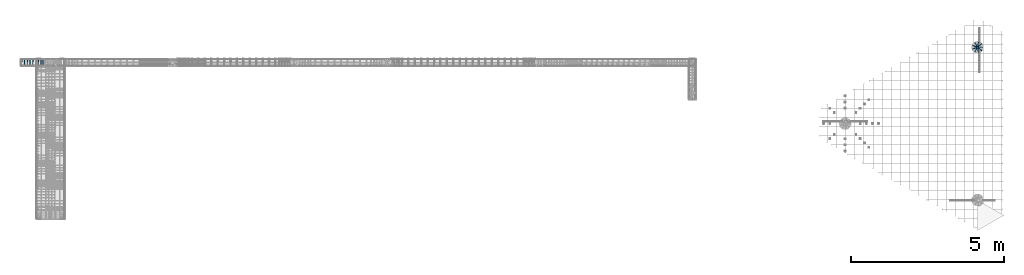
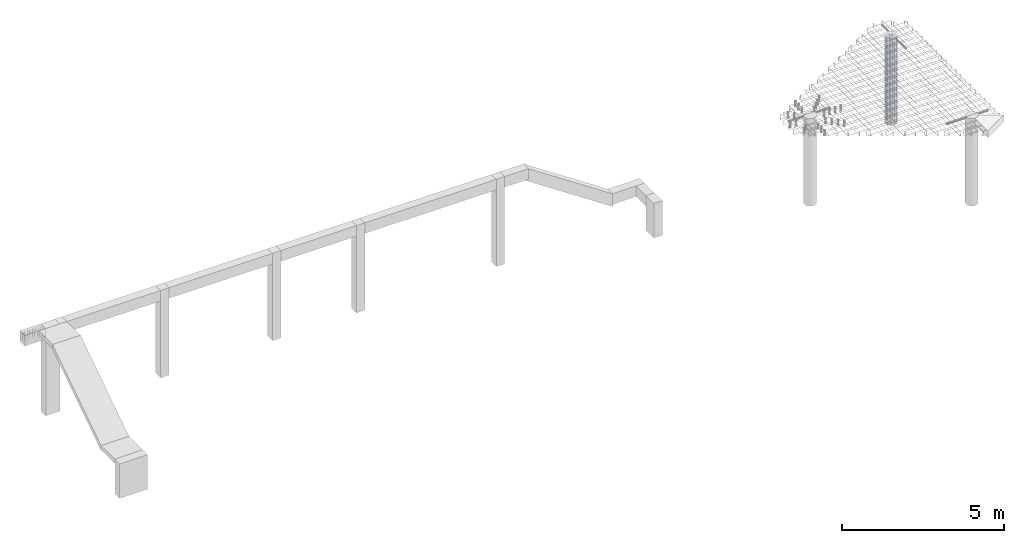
# One storey, part 22 of 24: 2 reinforcing bars.
"""IFC2X3 building model written with IfcOpenShell, lengths in metres."""

from ifc_helpers import new_model, entity, si_unit, direction, frame, origin, place, context, subcontext, project, spatial, shape, source, transform, mapped, element, save


model = new_model("IFC2X3")

# Units and contexts
model_context = context("Model", 3, precision=0.0, world=origin(), true_north=direction((0.0, 1.0)))
plan_context = context("Plan", 3, precision=0.0, world=origin(), true_north=direction((0.0, 1.0)))
body_context = subcontext(model_context, "Body", "Model", "MODEL_VIEW", scale=1.0)
ifc_project = project(units=[si_unit("LENGTHUNIT", "METRE"), si_unit("AREAUNIT", "SQUARE_METRE"), si_unit("VOLUMEUNIT", "CUBIC_METRE"), si_unit("PLANEANGLEUNIT", "RADIAN"), si_unit("THERMODYNAMICTEMPERATUREUNIT", "DEGREE_CELSIUS"), si_unit("FORCEUNIT", "NEWTON"), si_unit("MASSUNIT", "GRAM", prefix="KILO")], contexts=[model_context, plan_context])

# Site, building, storey
placement = place(None, origin())
site = spatial("IfcSite", under=ifc_project, at=placement, Name="Default Site", CompositionType="ELEMENT")
building = spatial("IfcBuilding", under=site, at=placement, Name="Default Building", CompositionType="ELEMENT")
storey_placement = place(placement, frame((0.0, 0.0, 3.3), z_axis=(1.0, 0.0, 0.0), x_axis=(0.0, 0.0, 1.0)))
storey = spatial("IfcBuildingStorey", under=building, at=storey_placement, Name="Piano 2", CompositionType="ELEMENT", Elevation=3.3)

# Reinforcing bars
shared_shape_1 = source(origin(), body_context, None, "AdvancedSweptSolid", [
    entity("IfcSweptDiskSolid", entity("IfcCompositeCurve", [entity("IfcCompositeCurveSegment", "CONTINUOUS", True, entity("IfcPolyline", [entity("IfcCartesianPoint", [0.0, 0.0, 0.0]), entity("IfcCartesianPoint", [0.0, 0.066019, 0.066019]), entity("IfcCartesianPoint", [0.000256, 0.070711, 0.07734]), entity("IfcCartesianPoint", [0.000483, 0.069135, 0.083218]), entity("IfcCartesianPoint", [0.000652, 0.064829, 0.087521]), entity("IfcCartesianPoint", [0.000716, 0.058947, 0.089095]), entity("IfcCartesianPoint", [0.000831, -0.145289, 0.089095]), entity("IfcCartesianPoint", [0.000846, -0.153289, 0.086952]), entity("IfcCartesianPoint", [0.000878, -0.159146, 0.081096]), entity("IfcCartesianPoint", [0.000919, -0.161289, 0.073096]), entity("IfcCartesianPoint", [0.002406, -0.161289, -0.226906]), entity("IfcCartesianPoint", [0.002467, -0.159146, -0.234905]), entity("IfcCartesianPoint", [0.002556, -0.15329, -0.240761]), entity("IfcCartesianPoint", [0.002647, -0.145291, -0.242905]), entity("IfcCartesianPoint", [0.004677, 0.054712, -0.242905]), entity("IfcCartesianPoint", [0.004769, 0.062712, -0.240761]), entity("IfcCartesianPoint", [0.004858, 0.068567, -0.234905]), entity("IfcCartesianPoint", [0.004919, 0.070711, -0.226906]), entity("IfcCartesianPoint", [0.006406, 0.070711, 0.073106]), entity("IfcCartesianPoint", [0.006717, 0.068586, 0.081101]), entity("IfcCartesianPoint", [0.00749, 0.062781, 0.086954]), entity("IfcCartesianPoint", [0.008516, 0.05485, 0.089095]), entity("IfcCartesianPoint", [0.008756, 0.052514, 0.088627]), entity("IfcCartesianPoint", [0.008843, 0.050526, 0.087296]), entity("IfcCartesianPoint", [0.00897, -0.018385, 0.018385])]))], False), 0.004, 0.0, 0.0),
])
shared_shape_2 = source(origin(), body_context, None, "AdvancedSweptSolid", [
    entity("IfcSweptDiskSolid", entity("IfcCompositeCurve", [entity("IfcCompositeCurveSegment", "CONTINUOUS", True, entity("IfcPolyline", [entity("IfcCartesianPoint", [0.0, 0.0, 0.0]), entity("IfcCartesianPoint", [0.0, 0.066019, 0.066019]), entity("IfcCartesianPoint", [0.000256, 0.070711, 0.07734]), entity("IfcCartesianPoint", [0.000483, 0.069135, 0.083218]), entity("IfcCartesianPoint", [0.000652, 0.064829, 0.087521]), entity("IfcCartesianPoint", [0.000716, 0.058947, 0.089095]), entity("IfcCartesianPoint", [0.000831, -0.145289, 0.089095]), entity("IfcCartesianPoint", [0.000846, -0.153289, 0.086952]), entity("IfcCartesianPoint", [0.000878, -0.159146, 0.081096]), entity("IfcCartesianPoint", [0.000919, -0.161289, 0.073096]), entity("IfcCartesianPoint", [0.002406, -0.161289, -0.226906]), entity("IfcCartesianPoint", [0.002467, -0.159146, -0.234905]), entity("IfcCartesianPoint", [0.002556, -0.15329, -0.240761]), entity("IfcCartesianPoint", [0.002647, -0.145291, -0.242905]), entity("IfcCartesianPoint", [0.004677, 0.054712, -0.242905]), entity("IfcCartesianPoint", [0.004769, 0.062712, -0.240761]), entity("IfcCartesianPoint", [0.004858, 0.068567, -0.234905]), entity("IfcCartesianPoint", [0.004919, 0.070711, -0.226906]), entity("IfcCartesianPoint", [0.006406, 0.070711, 0.073106]), entity("IfcCartesianPoint", [0.006717, 0.068586, 0.081101]), entity("IfcCartesianPoint", [0.00749, 0.062781, 0.086954]), entity("IfcCartesianPoint", [0.008516, 0.05485, 0.089095]), entity("IfcCartesianPoint", [0.008756, 0.052514, 0.088627]), entity("IfcCartesianPoint", [0.008843, 0.050526, 0.087296]), entity("IfcCartesianPoint", [0.00897, -0.018385, 0.018385])]))], False), 0.004, 0.0, 0.0),
])
shared_shape_3 = source(origin(), body_context, None, "AdvancedSweptSolid", [
    entity("IfcSweptDiskSolid", entity("IfcCompositeCurve", [entity("IfcCompositeCurveSegment", "CONTINUOUS", True, entity("IfcPolyline", [entity("IfcCartesianPoint", [0.0, 0.0, 0.0]), entity("IfcCartesianPoint", [0.0, 0.066019, 0.066019]), entity("IfcCartesianPoint", [0.000256, 0.070711, 0.07734]), entity("IfcCartesianPoint", [0.000483, 0.069135, 0.083218]), entity("IfcCartesianPoint", [0.000652, 0.064829, 0.087521]), entity("IfcCartesianPoint", [0.000716, 0.058947, 0.089095]), entity("IfcCartesianPoint", [0.000831, -0.145289, 0.089095]), entity("IfcCartesianPoint", [0.000846, -0.153289, 0.086952]), entity("IfcCartesianPoint", [0.000878, -0.159146, 0.081096]), entity("IfcCartesianPoint", [0.000919, -0.161289, 0.073096]), entity("IfcCartesianPoint", [0.002406, -0.161289, -0.226906]), entity("IfcCartesianPoint", [0.002467, -0.159146, -0.234905]), entity("IfcCartesianPoint", [0.002556, -0.15329, -0.240761]), entity("IfcCartesianPoint", [0.002647, -0.145291, -0.242905]), entity("IfcCartesianPoint", [0.004677, 0.054712, -0.242905]), entity("IfcCartesianPoint", [0.004769, 0.062712, -0.240761]), entity("IfcCartesianPoint", [0.004858, 0.068567, -0.234905]), entity("IfcCartesianPoint", [0.004919, 0.070711, -0.226906]), entity("IfcCartesianPoint", [0.006406, 0.070711, 0.073106]), entity("IfcCartesianPoint", [0.006717, 0.068586, 0.081101]), entity("IfcCartesianPoint", [0.00749, 0.062781, 0.086954]), entity("IfcCartesianPoint", [0.008516, 0.05485, 0.089095]), entity("IfcCartesianPoint", [0.008756, 0.052514, 0.088627]), entity("IfcCartesianPoint", [0.008843, 0.050526, 0.087296]), entity("IfcCartesianPoint", [0.00897, -0.018385, 0.018385])]))], False), 0.004, 0.0, 0.0),
])
shared_shape_4 = source(origin(), body_context, None, "AdvancedSweptSolid", [
    entity("IfcSweptDiskSolid", entity("IfcCompositeCurve", [entity("IfcCompositeCurveSegment", "CONTINUOUS", True, entity("IfcPolyline", [entity("IfcCartesianPoint", [0.0, 0.0, 0.0]), entity("IfcCartesianPoint", [0.0, 0.066019, 0.066019]), entity("IfcCartesianPoint", [0.000256, 0.070711, 0.07734]), entity("IfcCartesianPoint", [0.000483, 0.069135, 0.083218]), entity("IfcCartesianPoint", [0.000652, 0.064829, 0.087521]), entity("IfcCartesianPoint", [0.000716, 0.058947, 0.089095]), entity("IfcCartesianPoint", [0.000831, -0.145289, 0.089095]), entity("IfcCartesianPoint", [0.000846, -0.153289, 0.086952]), entity("IfcCartesianPoint", [0.000878, -0.159146, 0.081096]), entity("IfcCartesianPoint", [0.000919, -0.161289, 0.073096]), entity("IfcCartesianPoint", [0.002406, -0.161289, -0.226906]), entity("IfcCartesianPoint", [0.002467, -0.159146, -0.234905]), entity("IfcCartesianPoint", [0.002556, -0.15329, -0.240761]), entity("IfcCartesianPoint", [0.002647, -0.145291, -0.242905]), entity("IfcCartesianPoint", [0.004677, 0.054712, -0.242905]), entity("IfcCartesianPoint", [0.004769, 0.062712, -0.240761]), entity("IfcCartesianPoint", [0.004858, 0.068567, -0.234905]), entity("IfcCartesianPoint", [0.004919, 0.070711, -0.226906]), entity("IfcCartesianPoint", [0.006406, 0.070711, 0.073106]), entity("IfcCartesianPoint", [0.006717, 0.068586, 0.081101]), entity("IfcCartesianPoint", [0.00749, 0.062781, 0.086954]), entity("IfcCartesianPoint", [0.008516, 0.05485, 0.089095]), entity("IfcCartesianPoint", [0.008756, 0.052514, 0.088627]), entity("IfcCartesianPoint", [0.008843, 0.050526, 0.087296]), entity("IfcCartesianPoint", [0.00897, -0.018385, 0.018385])]))], False), 0.004, 0.0, 0.0),
])
shared_shape_5 = source(origin(), body_context, None, "AdvancedSweptSolid", [
    entity("IfcSweptDiskSolid", entity("IfcCompositeCurve", [entity("IfcCompositeCurveSegment", "CONTINUOUS", True, entity("IfcPolyline", [entity("IfcCartesianPoint", [0.0, 0.0, 0.0]), entity("IfcCartesianPoint", [0.0, 0.066019, 0.066019]), entity("IfcCartesianPoint", [0.000256, 0.070711, 0.07734]), entity("IfcCartesianPoint", [0.000483, 0.069135, 0.083218]), entity("IfcCartesianPoint", [0.000652, 0.064829, 0.087521]), entity("IfcCartesianPoint", [0.000716, 0.058947, 0.089095]), entity("IfcCartesianPoint", [0.000831, -0.145289, 0.089095]), entity("IfcCartesianPoint", [0.000846, -0.153289, 0.086952]), entity("IfcCartesianPoint", [0.000878, -0.159146, 0.081096]), entity("IfcCartesianPoint", [0.000919, -0.161289, 0.073096]), entity("IfcCartesianPoint", [0.002406, -0.161289, -0.226906]), entity("IfcCartesianPoint", [0.002467, -0.159146, -0.234905]), entity("IfcCartesianPoint", [0.002556, -0.15329, -0.240761]), entity("IfcCartesianPoint", [0.002647, -0.145291, -0.242905]), entity("IfcCartesianPoint", [0.004677, 0.054712, -0.242905]), entity("IfcCartesianPoint", [0.004769, 0.062712, -0.240761]), entity("IfcCartesianPoint", [0.004858, 0.068567, -0.234905]), entity("IfcCartesianPoint", [0.004919, 0.070711, -0.226906]), entity("IfcCartesianPoint", [0.006406, 0.070711, 0.073106]), entity("IfcCartesianPoint", [0.006717, 0.068586, 0.081101]), entity("IfcCartesianPoint", [0.00749, 0.062781, 0.086954]), entity("IfcCartesianPoint", [0.008516, 0.05485, 0.089095]), entity("IfcCartesianPoint", [0.008756, 0.052514, 0.088627]), entity("IfcCartesianPoint", [0.008843, 0.050526, 0.087296]), entity("IfcCartesianPoint", [0.00897, -0.018385, 0.018385])]))], False), 0.004, 0.0, 0.0),
])
shared_shape_6 = source(origin(), body_context, None, "AdvancedSweptSolid", [
    entity("IfcSweptDiskSolid", entity("IfcCompositeCurve", [entity("IfcCompositeCurveSegment", "CONTINUOUS", True, entity("IfcPolyline", [entity("IfcCartesianPoint", [0.0, 0.0, 0.0]), entity("IfcCartesianPoint", [0.0, 0.066019, 0.066019]), entity("IfcCartesianPoint", [0.000256, 0.070711, 0.07734]), entity("IfcCartesianPoint", [0.000483, 0.069135, 0.083218]), entity("IfcCartesianPoint", [0.000652, 0.064829, 0.087521]), entity("IfcCartesianPoint", [0.000716, 0.058947, 0.089095]), entity("IfcCartesianPoint", [0.000831, -0.145289, 0.089095]), entity("IfcCartesianPoint", [0.000846, -0.153289, 0.086952]), entity("IfcCartesianPoint", [0.000878, -0.159146, 0.081096]), entity("IfcCartesianPoint", [0.000919, -0.161289, 0.073096]), entity("IfcCartesianPoint", [0.002406, -0.161289, -0.226906]), entity("IfcCartesianPoint", [0.002467, -0.159146, -0.234905]), entity("IfcCartesianPoint", [0.002556, -0.15329, -0.240761]), entity("IfcCartesianPoint", [0.002647, -0.145291, -0.242905]), entity("IfcCartesianPoint", [0.004677, 0.054712, -0.242905]), entity("IfcCartesianPoint", [0.004769, 0.062712, -0.240761]), entity("IfcCartesianPoint", [0.004858, 0.068567, -0.234905]), entity("IfcCartesianPoint", [0.004919, 0.070711, -0.226906]), entity("IfcCartesianPoint", [0.006406, 0.070711, 0.073106]), entity("IfcCartesianPoint", [0.006717, 0.068586, 0.081101]), entity("IfcCartesianPoint", [0.00749, 0.062781, 0.086954]), entity("IfcCartesianPoint", [0.008516, 0.05485, 0.089095]), entity("IfcCartesianPoint", [0.008756, 0.052514, 0.088627]), entity("IfcCartesianPoint", [0.008843, 0.050526, 0.087296]), entity("IfcCartesianPoint", [0.00897, -0.018385, 0.018385])]))], False), 0.004, 0.0, 0.0),
])
shared_shape_7 = source(origin(), body_context, None, "AdvancedSweptSolid", [
    entity("IfcSweptDiskSolid", entity("IfcCompositeCurve", [entity("IfcCompositeCurveSegment", "CONTINUOUS", True, entity("IfcPolyline", [entity("IfcCartesianPoint", [0.0, 0.0, 0.0]), entity("IfcCartesianPoint", [0.0, 0.066019, 0.066019]), entity("IfcCartesianPoint", [0.000256, 0.070711, 0.07734]), entity("IfcCartesianPoint", [0.000483, 0.069135, 0.083218]), entity("IfcCartesianPoint", [0.000652, 0.064829, 0.087521]), entity("IfcCartesianPoint", [0.000716, 0.058947, 0.089095]), entity("IfcCartesianPoint", [0.000831, -0.145289, 0.089095]), entity("IfcCartesianPoint", [0.000846, -0.153289, 0.086952]), entity("IfcCartesianPoint", [0.000878, -0.159146, 0.081096]), entity("IfcCartesianPoint", [0.000919, -0.161289, 0.073096]), entity("IfcCartesianPoint", [0.002406, -0.161289, -0.226906]), entity("IfcCartesianPoint", [0.002467, -0.159146, -0.234905]), entity("IfcCartesianPoint", [0.002556, -0.15329, -0.240761]), entity("IfcCartesianPoint", [0.002647, -0.145291, -0.242905]), entity("IfcCartesianPoint", [0.004677, 0.054712, -0.242905]), entity("IfcCartesianPoint", [0.004769, 0.062712, -0.240761]), entity("IfcCartesianPoint", [0.004858, 0.068567, -0.234905]), entity("IfcCartesianPoint", [0.004919, 0.070711, -0.226906]), entity("IfcCartesianPoint", [0.006406, 0.070711, 0.073106]), entity("IfcCartesianPoint", [0.006717, 0.068586, 0.081101]), entity("IfcCartesianPoint", [0.00749, 0.062781, 0.086954]), entity("IfcCartesianPoint", [0.008516, 0.05485, 0.089095]), entity("IfcCartesianPoint", [0.008756, 0.052514, 0.088627]), entity("IfcCartesianPoint", [0.008843, 0.050526, 0.087296]), entity("IfcCartesianPoint", [0.00897, -0.018385, 0.018385])]))], False), 0.004, 0.0, 0.0),
])
shared_shape_8 = source(origin(), body_context, None, "AdvancedSweptSolid", [
    entity("IfcSweptDiskSolid", entity("IfcCompositeCurve", [entity("IfcCompositeCurveSegment", "CONTINUOUS", True, entity("IfcPolyline", [entity("IfcCartesianPoint", [0.0, 0.0, 0.0]), entity("IfcCartesianPoint", [0.0, 0.066019, 0.066019]), entity("IfcCartesianPoint", [0.000256, 0.070711, 0.07734]), entity("IfcCartesianPoint", [0.000483, 0.069135, 0.083218]), entity("IfcCartesianPoint", [0.000652, 0.064829, 0.087521]), entity("IfcCartesianPoint", [0.000716, 0.058947, 0.089095]), entity("IfcCartesianPoint", [0.000831, -0.145289, 0.089095]), entity("IfcCartesianPoint", [0.000846, -0.153289, 0.086952]), entity("IfcCartesianPoint", [0.000878, -0.159146, 0.081096]), entity("IfcCartesianPoint", [0.000919, -0.161289, 0.073096]), entity("IfcCartesianPoint", [0.002406, -0.161289, -0.226906]), entity("IfcCartesianPoint", [0.002467, -0.159146, -0.234905]), entity("IfcCartesianPoint", [0.002556, -0.15329, -0.240761]), entity("IfcCartesianPoint", [0.002647, -0.145291, -0.242905]), entity("IfcCartesianPoint", [0.004677, 0.054712, -0.242905]), entity("IfcCartesianPoint", [0.004769, 0.062712, -0.240761]), entity("IfcCartesianPoint", [0.004858, 0.068567, -0.234905]), entity("IfcCartesianPoint", [0.004919, 0.070711, -0.226906]), entity("IfcCartesianPoint", [0.006406, 0.070711, 0.073106]), entity("IfcCartesianPoint", [0.006717, 0.068586, 0.081101]), entity("IfcCartesianPoint", [0.00749, 0.062781, 0.086954]), entity("IfcCartesianPoint", [0.008516, 0.05485, 0.089095]), entity("IfcCartesianPoint", [0.008756, 0.052514, 0.088627]), entity("IfcCartesianPoint", [0.008843, 0.050526, 0.087296]), entity("IfcCartesianPoint", [0.00897, -0.018385, 0.018385])]))], False), 0.004, 0.0, 0.0),
])
shared_shape_9 = source(origin(), body_context, None, "AdvancedSweptSolid", [
    entity("IfcSweptDiskSolid", entity("IfcCompositeCurve", [entity("IfcCompositeCurveSegment", "CONTINUOUS", True, entity("IfcPolyline", [entity("IfcCartesianPoint", [0.0, 0.0, 0.0]), entity("IfcCartesianPoint", [0.0, 0.066019, 0.066019]), entity("IfcCartesianPoint", [0.000256, 0.070711, 0.07734]), entity("IfcCartesianPoint", [0.000483, 0.069135, 0.083218]), entity("IfcCartesianPoint", [0.000652, 0.064829, 0.087521]), entity("IfcCartesianPoint", [0.000716, 0.058947, 0.089095]), entity("IfcCartesianPoint", [0.000831, -0.145289, 0.089095]), entity("IfcCartesianPoint", [0.000846, -0.153289, 0.086952]), entity("IfcCartesianPoint", [0.000878, -0.159146, 0.081096]), entity("IfcCartesianPoint", [0.000919, -0.161289, 0.073096]), entity("IfcCartesianPoint", [0.002406, -0.161289, -0.226906]), entity("IfcCartesianPoint", [0.002467, -0.159146, -0.234905]), entity("IfcCartesianPoint", [0.002556, -0.15329, -0.240761]), entity("IfcCartesianPoint", [0.002647, -0.145291, -0.242905]), entity("IfcCartesianPoint", [0.004677, 0.054712, -0.242905]), entity("IfcCartesianPoint", [0.004769, 0.062712, -0.240761]), entity("IfcCartesianPoint", [0.004858, 0.068567, -0.234905]), entity("IfcCartesianPoint", [0.004919, 0.070711, -0.226906]), entity("IfcCartesianPoint", [0.006406, 0.070711, 0.073106]), entity("IfcCartesianPoint", [0.006717, 0.068586, 0.081101]), entity("IfcCartesianPoint", [0.00749, 0.062781, 0.086954]), entity("IfcCartesianPoint", [0.008516, 0.05485, 0.089095]), entity("IfcCartesianPoint", [0.008756, 0.052514, 0.088627]), entity("IfcCartesianPoint", [0.008843, 0.050526, 0.087296]), entity("IfcCartesianPoint", [0.00897, -0.018385, 0.018385])]))], False), 0.004, 0.0, 0.0),
])
element("IfcReinforcingBar", 1, at=placement, inside=storey, Name="Arm Staffa; Trave:9 [Piano:2]", BarLength=12.284583, BarRole="SHEAR", BarSurface="TEXTURED", NominalDiameter=0.008, shapes=[
    shape(body_context, None, "MappedRepresentation", [mapped(shared_shape_1, transform((-4.944, 5.045289, 3.169905))), mapped(shared_shape_2, transform((-4.854, 5.045289, 3.169905))), mapped(shared_shape_3, transform((-4.764, 5.045289, 3.169905))), mapped(shared_shape_4, transform((-4.674, 5.045289, 3.169905))), mapped(shared_shape_5, transform((-4.584, 5.045289, 3.169905))), mapped(shared_shape_6, transform((-4.494, 5.045289, 3.169905))), mapped(shared_shape_7, transform((-4.404, 5.045289, 3.169905))), mapped(shared_shape_8, transform((-4.314, 5.045289, 3.169905))), mapped(shared_shape_9, transform((-4.254, 5.045289, 3.169905)))]),
])
shared_shape_10 = source(origin(), body_context, None, "AdvancedSweptSolid", [
    entity("IfcSweptDiskSolid", entity("IfcCompositeCurve", [entity("IfcCompositeCurveSegment", "CONTINUOUS", True, entity("IfcPolyline", [entity("IfcCartesianPoint", [0.0, 0.0, 0.0]), entity("IfcCartesianPoint", [0.0, 0.0, 3.237]), entity("IfcCartesianPoint", [-0.003751, 0.0, 3.251]), entity("IfcCartesianPoint", [-0.014, 0.0, 3.261249]), entity("IfcCartesianPoint", [-0.028, 0.0, 3.265]), entity("IfcCartesianPoint", [-0.14, 0.0, 3.265])]))], False), 0.007, 0.0, 0.0),
])
shared_shape_11 = source(origin(), body_context, None, "MappedRepresentation", [mapped(shared_shape_10, transform((26.492754, 5.5, 0.0)))])
shared_shape_12 = source(origin(), body_context, None, "AdvancedSweptSolid", [
    entity("IfcSweptDiskSolid", entity("IfcCompositeCurve", [entity("IfcCompositeCurveSegment", "CONTINUOUS", True, entity("IfcPolyline", [entity("IfcCartesianPoint", [0.0, 0.0, 0.0]), entity("IfcCartesianPoint", [0.0, 0.0, 3.237]), entity("IfcCartesianPoint", [-0.002874, -0.002411, 3.251]), entity("IfcCartesianPoint", [-0.010725, -0.008999, 3.261249]), entity("IfcCartesianPoint", [-0.021449, -0.017998, 3.265]), entity("IfcCartesianPoint", [-0.107246, -0.08999, 3.265])]))], False), 0.007, 0.0, 0.0),
])
shared_shape_13 = source(origin(), body_context, None, "MappedRepresentation", [mapped(shared_shape_12, transform((26.454677, 5.604616, 0.0)))])
shared_shape_14 = source(origin(), body_context, None, "AdvancedSweptSolid", [
    entity("IfcSweptDiskSolid", entity("IfcCompositeCurve", [entity("IfcCompositeCurveSegment", "CONTINUOUS", True, entity("IfcPolyline", [entity("IfcCartesianPoint", [0.0, 0.0, 0.0]), entity("IfcCartesianPoint", [0.0, 0.0, 3.237]), entity("IfcCartesianPoint", [-0.000651, -0.003694, 3.251]), entity("IfcCartesianPoint", [-0.002431, -0.013787, 3.261249]), entity("IfcCartesianPoint", [-0.004862, -0.027575, 3.265]), entity("IfcCartesianPoint", [-0.024311, -0.137873, 3.265])]))], False), 0.007, 0.0, 0.0),
])
shared_shape_15 = source(origin(), body_context, None, "MappedRepresentation", [mapped(shared_shape_14, transform((26.358262, 5.660281, 0.0)))])
shared_shape_16 = source(origin(), body_context, None, "AdvancedSweptSolid", [
    entity("IfcSweptDiskSolid", entity("IfcCompositeCurve", [entity("IfcCompositeCurveSegment", "CONTINUOUS", True, entity("IfcPolyline", [entity("IfcCartesianPoint", [0.0, 0.0, 0.0]), entity("IfcCartesianPoint", [0.0, 0.0, 3.237]), entity("IfcCartesianPoint", [0.001876, -0.003249, 3.251]), entity("IfcCartesianPoint", [0.007, -0.012124, 3.261249]), entity("IfcCartesianPoint", [0.014, -0.024249, 3.265]), entity("IfcCartesianPoint", [0.07, -0.121244, 3.265])]))], False), 0.007, 0.0, 0.0),
])
shared_shape_17 = source(origin(), body_context, None, "MappedRepresentation", [mapped(shared_shape_16, transform((26.248623, 5.640949, 0.0)))])
shared_shape_18 = source(origin(), body_context, None, "AdvancedSweptSolid", [
    entity("IfcSweptDiskSolid", entity("IfcCompositeCurve", [entity("IfcCompositeCurveSegment", "CONTINUOUS", True, entity("IfcPolyline", [entity("IfcCartesianPoint", [0.0, 0.0, 0.0]), entity("IfcCartesianPoint", [0.0, 0.0, 3.237]), entity("IfcCartesianPoint", [0.003525, -0.001283, 3.251]), entity("IfcCartesianPoint", [0.013156, -0.004788, 3.261249]), entity("IfcCartesianPoint", [0.026311, -0.009577, 3.265]), entity("IfcCartesianPoint", [0.131557, -0.047883, 3.265])]))], False), 0.007, 0.0, 0.0),
])
shared_shape_19 = source(origin(), body_context, None, "MappedRepresentation", [mapped(shared_shape_18, transform((26.177061, 5.555665, 0.0)))])
shared_shape_20 = source(origin(), body_context, None, "AdvancedSweptSolid", [
    entity("IfcSweptDiskSolid", entity("IfcCompositeCurve", [entity("IfcCompositeCurveSegment", "CONTINUOUS", True, entity("IfcPolyline", [entity("IfcCartesianPoint", [0.0, 0.0, 0.0]), entity("IfcCartesianPoint", [0.0, 0.0, 3.237]), entity("IfcCartesianPoint", [0.003525, 0.001283, 3.251]), entity("IfcCartesianPoint", [0.013156, 0.004788, 3.261249]), entity("IfcCartesianPoint", [0.026311, 0.009577, 3.265]), entity("IfcCartesianPoint", [0.131557, 0.047883, 3.265])]))], False), 0.007, 0.0, 0.0),
])
shared_shape_21 = source(origin(), body_context, None, "MappedRepresentation", [mapped(shared_shape_20, transform((26.177061, 5.444335, 0.0)))])
shared_shape_22 = source(origin(), body_context, None, "AdvancedSweptSolid", [
    entity("IfcSweptDiskSolid", entity("IfcCompositeCurve", [entity("IfcCompositeCurveSegment", "CONTINUOUS", True, entity("IfcPolyline", [entity("IfcCartesianPoint", [0.0, 0.0, 0.0]), entity("IfcCartesianPoint", [0.0, 0.0, 3.237]), entity("IfcCartesianPoint", [0.001876, 0.003249, 3.251]), entity("IfcCartesianPoint", [0.007, 0.012124, 3.261249]), entity("IfcCartesianPoint", [0.014, 0.024249, 3.265]), entity("IfcCartesianPoint", [0.07, 0.121244, 3.265])]))], False), 0.007, 0.0, 0.0),
])
shared_shape_23 = source(origin(), body_context, None, "MappedRepresentation", [mapped(shared_shape_22, transform((26.248623, 5.359051, 0.0)))])
shared_shape_24 = source(origin(), body_context, None, "AdvancedSweptSolid", [
    entity("IfcSweptDiskSolid", entity("IfcCompositeCurve", [entity("IfcCompositeCurveSegment", "CONTINUOUS", True, entity("IfcPolyline", [entity("IfcCartesianPoint", [0.0, 0.0, 0.0]), entity("IfcCartesianPoint", [0.0, 0.0, 3.237]), entity("IfcCartesianPoint", [-0.000651, 0.003694, 3.251]), entity("IfcCartesianPoint", [-0.002431, 0.013787, 3.261249]), entity("IfcCartesianPoint", [-0.004862, 0.027575, 3.265]), entity("IfcCartesianPoint", [-0.024311, 0.137873, 3.265])]))], False), 0.007, 0.0, 0.0),
])
shared_shape_25 = source(origin(), body_context, None, "MappedRepresentation", [mapped(shared_shape_24, transform((26.358262, 5.339719, 0.0)))])
shared_shape_26 = source(origin(), body_context, None, "AdvancedSweptSolid", [
    entity("IfcSweptDiskSolid", entity("IfcCompositeCurve", [entity("IfcCompositeCurveSegment", "CONTINUOUS", True, entity("IfcPolyline", [entity("IfcCartesianPoint", [0.0, 0.0, 0.0]), entity("IfcCartesianPoint", [0.0, 0.0, 3.237]), entity("IfcCartesianPoint", [-0.002874, 0.002411, 3.251]), entity("IfcCartesianPoint", [-0.010725, 0.008999, 3.261249]), entity("IfcCartesianPoint", [-0.021449, 0.017998, 3.265]), entity("IfcCartesianPoint", [-0.107246, 0.08999, 3.265])]))], False), 0.007, 0.0, 0.0),
])
shared_shape_27 = source(origin(), body_context, None, "MappedRepresentation", [mapped(shared_shape_26, transform((26.454677, 5.395384, 0.0)))])
element("IfcReinforcingBar", 2, at=placement, inside=storey, Name="Arm Principale; Pilastro:21 [Piano:2]", BarLength=30.645, BarRole="MAIN", BarSurface="TEXTURED", NominalDiameter=0.014, shapes=[
    shape(body_context, None, "MappedRepresentation", [mapped(shared_shape_11, transform((0.0, 0.0, 0.0))), mapped(shared_shape_13, transform((0.0, 0.0, 0.0))), mapped(shared_shape_15, transform((0.0, 0.0, 0.0))), mapped(shared_shape_17, transform((0.0, 0.0, 0.0))), mapped(shared_shape_19, transform((0.0, 0.0, 0.0))), mapped(shared_shape_21, transform((0.0, 0.0, 0.0))), mapped(shared_shape_23, transform((0.0, 0.0, 0.0))), mapped(shared_shape_25, transform((0.0, 0.0, 0.0))), mapped(shared_shape_27, transform((0.0, 0.0, 0.0)))]),
])

save(model, "model.ifc")
